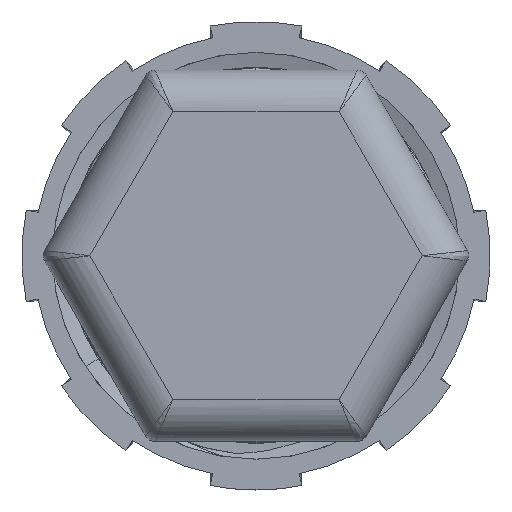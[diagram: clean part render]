
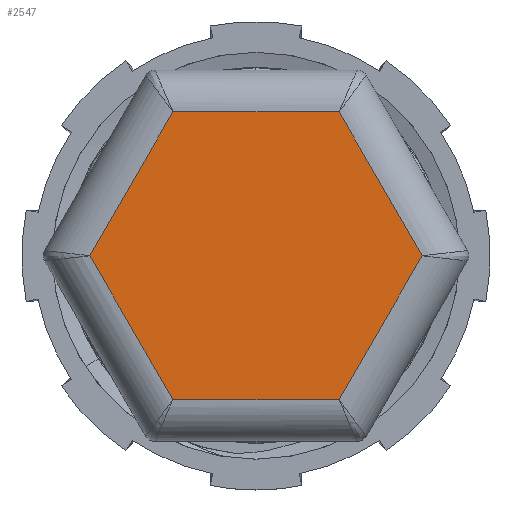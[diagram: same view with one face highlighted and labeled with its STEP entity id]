
A CAD part, front view. The second image highlights one B-rep face of the part: STEP entity #2547.
In plain terms, the highlighted planar face has unit normal (0, -1, 0) as drawn and (0, 0, -1) by its records, which use the part's own axes.
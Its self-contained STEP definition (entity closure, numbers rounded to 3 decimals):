
#228 = EDGE_CURVE ( 'NONE', #8943, #12587, #3528, .T. ) ;
#804 = CARTESIAN_POINT ( 'NONE',  ( 0., -20.674, 0. ) ) ;
#1741 = DIRECTION ( 'NONE',  ( -0.5, 0.866, 0. ) ) ;
#2019 = EDGE_CURVE ( 'NONE', #10065, #18016, #17007, .T. ) ;
#2547 = ADVANCED_FACE ( 'NONE', ( #12308 ), #13273, .F. ) ;
#3039 = EDGE_LOOP ( 'NONE', ( #4588, #13708, #17820, #12543, #3802, #21509 ) ) ;
#3493 = LINE ( 'NONE', #804, #15716 ) ;
#3528 = LINE ( 'NONE', #4192, #11833 ) ;
#3763 = VECTOR ( 'NONE', #11561, 1000. ) ;
#3802 = ORIENTED_EDGE ( 'NONE', *, *, #228, .T. ) ;
#3934 = CARTESIAN_POINT ( 'NONE',  ( 0., 20.674, 0. ) ) ;
#4192 = CARTESIAN_POINT ( 'NONE',  ( -17.904, 10.337, 0. ) ) ;
#4227 = CARTESIAN_POINT ( 'NONE',  ( 23.872, 0., 0. ) ) ;
#4494 = EDGE_CURVE ( 'NONE', #5153, #14082, #3493, .T. ) ;
#4588 = ORIENTED_EDGE ( 'NONE', *, *, #2019, .T. ) ;
#4996 = DIRECTION ( 'NONE',  ( 0., 0., 1. ) ) ;
#5153 = VERTEX_POINT ( 'NONE', #16479 ) ;
#6111 = LINE ( 'NONE', #10015, #10519 ) ;
#8181 = CARTESIAN_POINT ( 'NONE',  ( -11.936, 20.674, 0. ) ) ;
#8943 = VERTEX_POINT ( 'NONE', #16426 ) ;
#10015 = CARTESIAN_POINT ( 'NONE',  ( -17.904, -10.337, 0. ) ) ;
#10065 = VERTEX_POINT ( 'NONE', #17971 ) ;
#10102 = EDGE_CURVE ( 'NONE', #18016, #5153, #14610, .T. ) ;
#10519 = VECTOR ( 'NONE', #1741, 1000. ) ;
#11561 = DIRECTION ( 'NONE',  ( 0.5, -0.866, 0. ) ) ;
#11601 = CARTESIAN_POINT ( 'NONE',  ( 0., 0., 0. ) ) ;
#11833 = VECTOR ( 'NONE', #19131, 1000. ) ;
#12308 = FACE_OUTER_BOUND ( 'NONE', #3039, .T. ) ;
#12410 = DIRECTION ( 'NONE',  ( -1., 0., 0. ) ) ;
#12543 = ORIENTED_EDGE ( 'NONE', *, *, #13697, .T. ) ;
#12587 = VERTEX_POINT ( 'NONE', #8181 ) ;
#13050 = CARTESIAN_POINT ( 'NONE',  ( 17.904, -10.337, 0. ) ) ;
#13273 = PLANE ( 'NONE',  #18672 ) ;
#13554 = EDGE_CURVE ( 'NONE', #12587, #10065, #20403, .T. ) ;
#13697 = EDGE_CURVE ( 'NONE', #14082, #8943, #6111, .T. ) ;
#13708 = ORIENTED_EDGE ( 'NONE', *, *, #10102, .T. ) ;
#14082 = VERTEX_POINT ( 'NONE', #16031 ) ;
#14610 = LINE ( 'NONE', #13050, #18474 ) ;
#15716 = VECTOR ( 'NONE', #12410, 1000. ) ;
#16031 = CARTESIAN_POINT ( 'NONE',  ( -11.936, -20.674, 0. ) ) ;
#16325 = DIRECTION ( 'NONE',  ( 1., 0., 0. ) ) ;
#16426 = CARTESIAN_POINT ( 'NONE',  ( -23.872, 0., 0. ) ) ;
#16479 = CARTESIAN_POINT ( 'NONE',  ( 11.936, -20.674, 0. ) ) ;
#16603 = DIRECTION ( 'NONE',  ( 1., 0., 0. ) ) ;
#17007 = LINE ( 'NONE', #21523, #3763 ) ;
#17820 = ORIENTED_EDGE ( 'NONE', *, *, #4494, .T. ) ;
#17971 = CARTESIAN_POINT ( 'NONE',  ( 11.936, 20.674, 0. ) ) ;
#18016 = VERTEX_POINT ( 'NONE', #4227 ) ;
#18474 = VECTOR ( 'NONE', #19730, 1000. ) ;
#18672 = AXIS2_PLACEMENT_3D ( 'NONE', #11601, #4996, #16603 ) ;
#19131 = DIRECTION ( 'NONE',  ( 0.5, 0.866, 0. ) ) ;
#19730 = DIRECTION ( 'NONE',  ( -0.5, -0.866, 0. ) ) ;
#20403 = LINE ( 'NONE', #3934, #20923 ) ;
#20923 = VECTOR ( 'NONE', #16325, 1000. ) ;
#21509 = ORIENTED_EDGE ( 'NONE', *, *, #13554, .T. ) ;
#21523 = CARTESIAN_POINT ( 'NONE',  ( 17.904, 10.337, 0. ) ) ;
